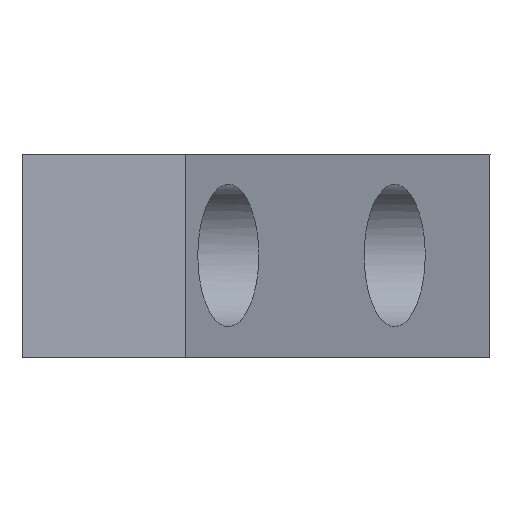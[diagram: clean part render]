
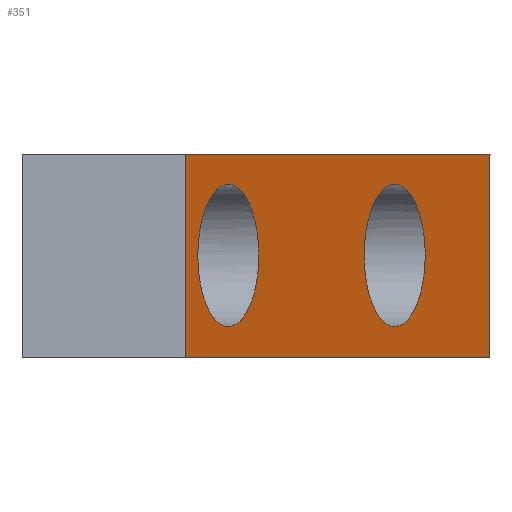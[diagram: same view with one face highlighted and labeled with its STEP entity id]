
A CAD part, left-side view. The second image highlights one B-rep face of the part: STEP entity #351.
In plain terms, the highlighted planar face has unit normal (-0.394, -0.919, 0) as drawn and (-0.394, 0, 0.919) by its records, which use the part's own axes.
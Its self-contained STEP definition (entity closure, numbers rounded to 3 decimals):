
#19=ELLIPSE('',#375,3.808,3.5);
#20=ELLIPSE('',#380,3.808,3.5);
#33=LINE('',#567,#62);
#43=LINE('',#593,#72);
#48=LINE('',#602,#77);
#49=LINE('',#604,#78);
#62=VECTOR('',#467,10.);
#72=VECTOR('',#485,10.);
#77=VECTOR('',#498,10.);
#78=VECTOR('',#501,10.);
#95=FACE_BOUND('',#140,.T.);
#96=FACE_BOUND('',#141,.T.);
#114=FACE_OUTER_BOUND('',#139,.T.);
#139=EDGE_LOOP('',(#300,#301,#302,#303));
#140=EDGE_LOOP('',(#304));
#141=EDGE_LOOP('',(#305));
#161=VERTEX_POINT('',#523);
#164=VERTEX_POINT('',#532);
#175=VERTEX_POINT('',#564);
#176=VERTEX_POINT('',#566);
#181=VERTEX_POINT('',#577);
#188=VERTEX_POINT('',#591);
#192=EDGE_CURVE('',#161,#161,#19,.T.);
#196=EDGE_CURVE('',#164,#164,#20,.T.);
#211=EDGE_CURVE('',#175,#176,#33,.T.);
#224=EDGE_CURVE('',#181,#188,#43,.T.);
#229=EDGE_CURVE('',#188,#176,#48,.T.);
#230=EDGE_CURVE('',#181,#175,#49,.T.);
#300=ORIENTED_EDGE('',*,*,#229,.T.);
#301=ORIENTED_EDGE('',*,*,#211,.F.);
#302=ORIENTED_EDGE('',*,*,#230,.F.);
#303=ORIENTED_EDGE('',*,*,#224,.T.);
#304=ORIENTED_EDGE('',*,*,#192,.T.);
#305=ORIENTED_EDGE('',*,*,#196,.T.);
#332=PLANE('',#402);
#351=ADVANCED_FACE('',(#114,#95,#96),#332,.T.);
#375=AXIS2_PLACEMENT_3D('',#525,#421,#422);
#380=AXIS2_PLACEMENT_3D('',#534,#432,#433);
#402=AXIS2_PLACEMENT_3D('',#603,#499,#500);
#421=DIRECTION('center_axis',(0.394,0.,-0.919));
#422=DIRECTION('ref_axis',(-0.919,0.,-0.394));
#432=DIRECTION('center_axis',(0.394,0.,-0.919));
#433=DIRECTION('ref_axis',(-0.919,0.,-0.394));
#467=DIRECTION('',(-0.919,0.,-0.394));
#485=DIRECTION('',(-0.919,0.,-0.394));
#498=DIRECTION('',(0.,-1.,0.));
#499=DIRECTION('center_axis',(-0.394,0.,0.919));
#500=DIRECTION('ref_axis',(-0.919,0.,-0.394));
#501=DIRECTION('',(0.,-1.,0.));
#523=CARTESIAN_POINT('',(-194.452,275.008,-291.227));
#525=CARTESIAN_POINT('Origin',(-197.952,275.008,-292.727));
#532=CARTESIAN_POINT('',(-175.35,275.008,-283.04));
#534=CARTESIAN_POINT('Origin',(-178.85,275.008,-284.54));
#564=CARTESIAN_POINT('',(-167.902,269.982,-279.848));
#566=CARTESIAN_POINT('',(-202.902,269.982,-294.848));
#567=CARTESIAN_POINT('',(-202.902,269.982,-294.848));
#577=CARTESIAN_POINT('',(-167.902,279.982,-279.848));
#591=CARTESIAN_POINT('',(-202.902,279.982,-294.848));
#593=CARTESIAN_POINT('',(-205.618,279.982,-296.012));
#602=CARTESIAN_POINT('',(-202.902,273.982,-294.848));
#603=CARTESIAN_POINT('Origin',(-167.902,273.982,-279.848));
#604=CARTESIAN_POINT('',(-167.902,273.982,-279.848));
